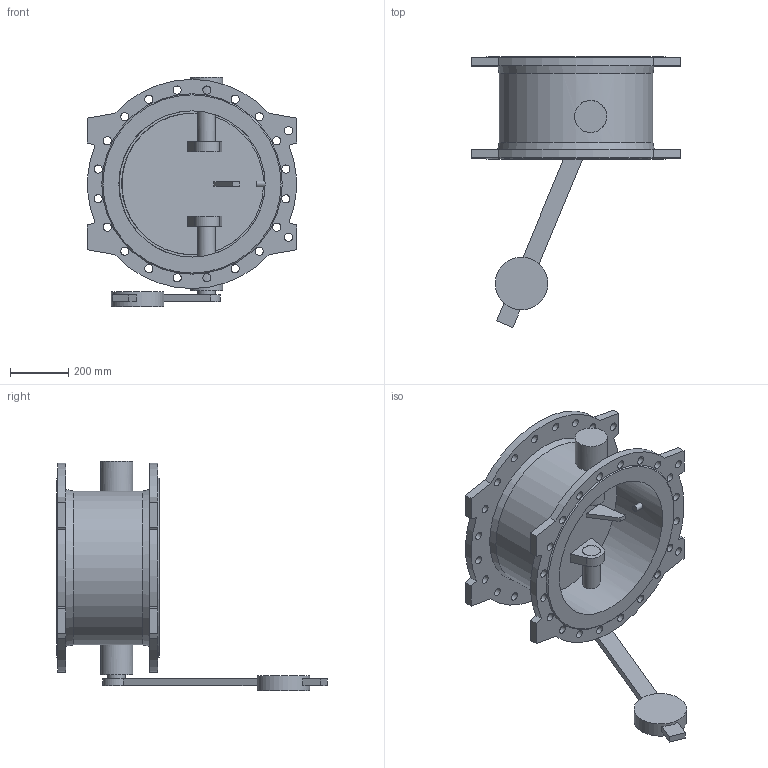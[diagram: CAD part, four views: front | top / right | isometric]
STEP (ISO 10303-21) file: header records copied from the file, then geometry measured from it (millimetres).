
FILE_DESCRIPTION(('STEP AP203'), '1');
FILE_NAME('Êëàïàí 015F.PV DN500 PN16 ñ ïðîòèâîâåñîì', '', ('UNSPECIFIED'), ('UNSPECIFIED'), 'ASCON STEP Converter 1.6', 'ASCON Math Kernel', '');
FILE_SCHEMA(('CONFIG_CONTROL_DESIGN'));
Length unit declared in the file: millimetre
Bounding box: 715 x 925 x 785 mm (x, y, z)
Volume: 26275663.3 mm3; surface area: 2864831.6 mm2
Topology: 1 solids, 1 shells, 136 faces, 348 edges, 231 vertices
Faces by surface type: cylinder 66, plane 63, cone 4, extrusion 2, bspline 1
Full cylindrical faces by diameter (mm): 20 x1, 28 x44, 60 x3, 62 x2, 110 x2, 180 x1, 500 x1, 526 x1
Entity records: 5990 total; most frequent: CARTESIAN_POINT 1515, DIRECTION 674, ORIENTED_EDGE 568, EDGE_LOOP 310, EDGE_CURVE 284, AXIS2_PLACEMENT_3D 271, VERTEX_POINT 230, FACE_BOUND 189
